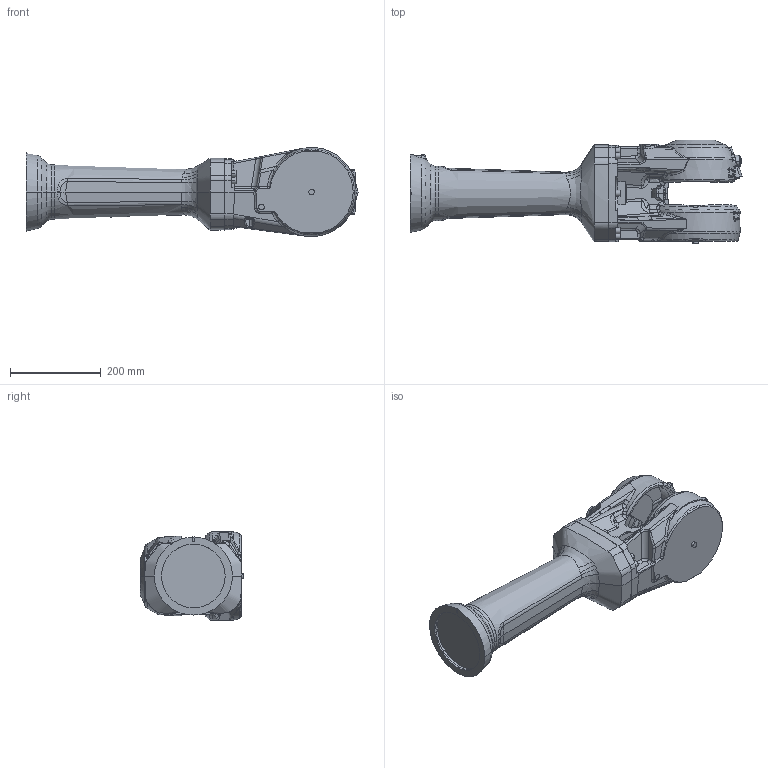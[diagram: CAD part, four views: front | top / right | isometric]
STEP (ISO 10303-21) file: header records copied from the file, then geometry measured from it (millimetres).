
FILE_DESCRIPTION (( 'STEP AP214' ), '1' );
FILE_NAME ('IRB4600_60kg-205_LINK4_CAD_rev04.STEP', '2016-12-06T10:35:51', ( 'ABB' ), ( 'ABB' ), 'SwSTEP 2.0', 'SolidWorks 2014', '' );
FILE_SCHEMA (( 'AUTOMOTIVE_DESIGN' ));
Length unit declared in the file: millimetre
Products named in the file (1): IRB4600_60kg-205_LINK4_CAD_rev04
Bounding box: 730.73 x 228 x 195.91 mm (x, y, z)
Volume: 11115319.8 mm3; surface area: 530625.2 mm2
Topology: 1 solids, 1 shells, 771 faces, 1945 edges, 1195 vertices
Faces by surface type: bspline 280, cylinder 219, plane 186, cone 46, torus 28, sphere 12
Entity records: 39728 total; most frequent: CARTESIAN_POINT 23778, ORIENTED_EDGE 3872, DIRECTION 2681, EDGE_CURVE 1936, VERTEX_POINT 1195, AXIS2_PLACEMENT_3D 1088, EDGE_LOOP 799, ADVANCED_FACE 771
